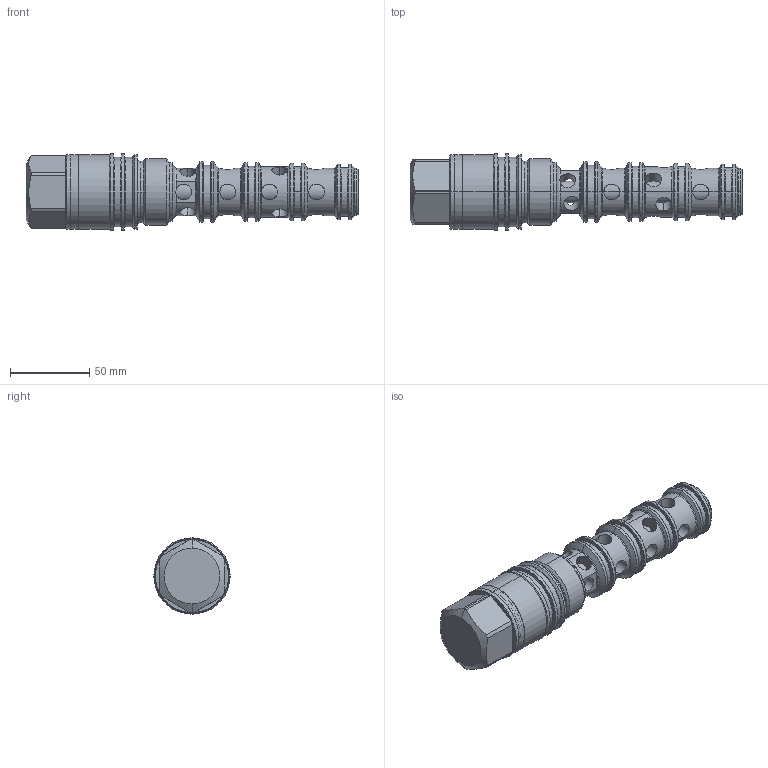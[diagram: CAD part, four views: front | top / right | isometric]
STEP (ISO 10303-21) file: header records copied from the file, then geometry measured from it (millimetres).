
FILE_DESCRIPTION (( 'STEP AP214' ), '1' );
FILE_NAME ('WVPPM42.STEP', '2017-03-07T14:14:22', ( '' ), ( '' ), 'SwSTEP 2.0', 'SolidWorks 2016', '' );
FILE_SCHEMA (( 'AUTOMOTIVE_DESIGN' ));
Length unit declared in the file: millimetre
Products named in the file (1): WVPPM42
Bounding box: 209 x 48 x 48 mm (x, y, z)
Volume: 220200.5 mm3; surface area: 40048.3 mm2
Topology: 2 solids, 3 shells, 290 faces, 747 edges, 452 vertices
Faces by surface type: cylinder 127, torus 58, cone 56, plane 49
Entity records: 14569 total; most frequent: CARTESIAN_POINT 4464, ORIENTED_EDGE 1494, DIRECTION 1476, EDGE_CURVE 747, AXIS2_PLACEMENT_3D 626, VERTEX_POINT 452, CIRCLE 335, EDGE_LOOP 321
